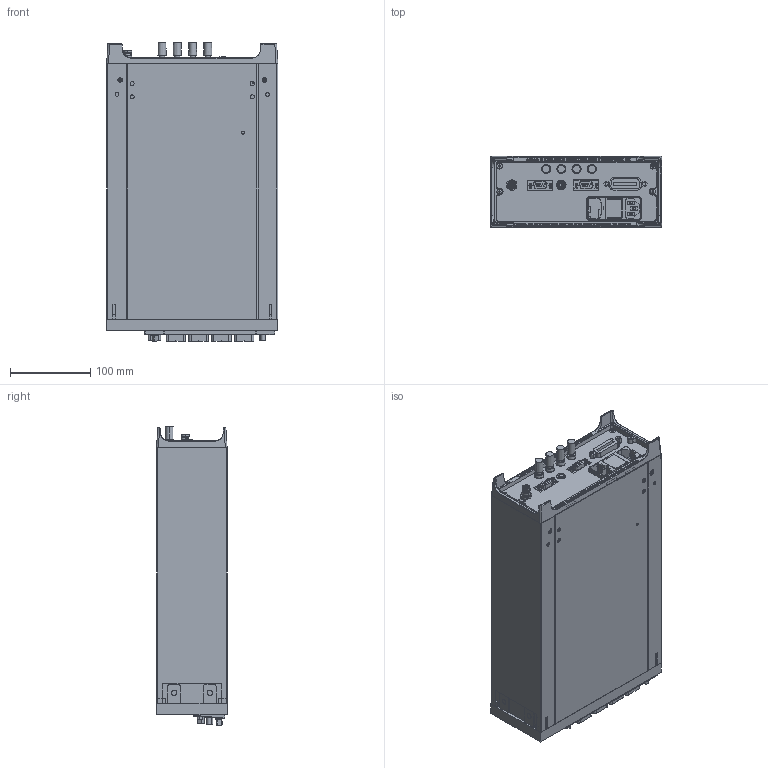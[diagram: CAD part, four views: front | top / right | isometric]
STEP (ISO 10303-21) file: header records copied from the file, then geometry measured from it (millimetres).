
FILE_DESCRIPTION((''),'2;1');
FILE_NAME('6514_ASM','2019-07-01T',('ngratzl'),(''),'CREO PARAMETRIC BY PTC INC, 2016050','CREO PARAMETRIC BY PTC INC, 2016050','');
FILE_SCHEMA(('CONFIG_CONTROL_DESIGN'));
Length unit declared in the file: inch
Products named in the file (35): 6514-301; 6514-303; BP-11-0; PM-1-1; 428-303; 2001-302; 2001-371; 2001-318; 6514-313; 2001-320; 6514-102; 6514-102-TOP-COMP; 6514-102-BOT-COMP; 6514-102_ASM; CS-995; CS-792; CS-501; CS-784-4; CS-784-7; CS-724-3; CS-368-16; 6514-310; ST-166-12; 6514-309; CS-1027; CS-784-5; 6514-100_ASM; 2000-307; GCS-1; CS-713; FA-232-1; CS-725; 6-32X3-8PFH; 4-40X1-4PFH; 6514_ASM
Assembly tree (47 placements, depth 4):
  6514_ASM
    6514-301
    6514-303
    BP-11-0  x4
    PM-1-1
    428-303
    2001-302
    2001-371  x2
    2001-318
    6514-313
    2001-320
    6514-100_ASM
      6514-102_ASM
        6514-102
        6514-102-TOP-COMP
        6514-102-BOT-COMP
      CS-995
      CS-792
      CS-501
      CS-784-4
      CS-784-7
      CS-724-3
      CS-368-16
      6514-310
      ST-166-12  x2
      6514-309
      CS-1027  x2
      CS-784-5
    2000-307
    GCS-1
    CS-713  x2
    FA-232-1  x2
    CS-725  x4
    6-32X3-8PFH  x2
    4-40X1-4PFH  x2
Bounding box: 214.5 x 88.54 x 373.25 mm (x, y, z)
Volume: 755172 mm3; surface area: 906072.5 mm2
Topology: 47 solids, 47 shells, 6937 faces, 18596 edges, 12212 vertices
Faces by surface type: plane 5567, cylinder 1200, cone 106, torus 44, bspline 12, sphere 8
Entity records: 248384 total; most frequent: CARTESIAN_POINT 37999, ORIENTED_EDGE 35364, DIRECTION 32871, EDGE_CURVE 17682, VECTOR 15231, LINE 15231, PRESENTATION_STYLE_ASSIGNMENT 13932, STYLED_ITEM 13932
